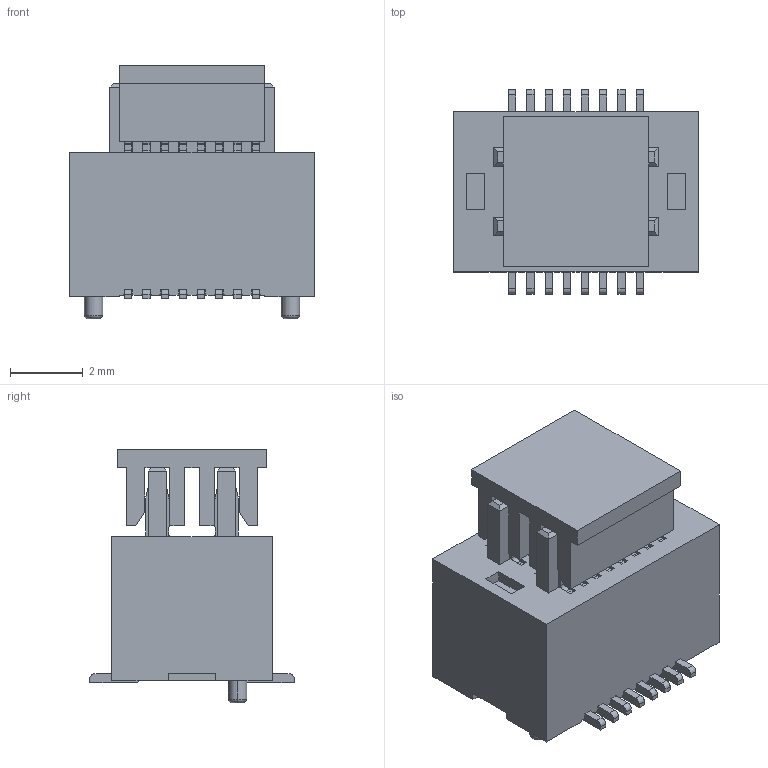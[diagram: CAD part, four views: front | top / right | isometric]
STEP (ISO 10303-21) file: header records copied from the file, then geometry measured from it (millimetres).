
FILE_DESCRIPTION(('CATIA V5 STEP Exchange'),'2;1');
FILE_NAME('F:\黄富鸿\板对板\PBB05\公座\H4.0\编带+盖\HC-PBB05-2-16-M-H4.0-G1-R-P-04（BTB0.5 双槽 公座 立贴 带柱 编带+盖）-HCTL.stp','2025-12-09T09:32:24+00:00',('none'),('none'),'CATIA Version 5 Release 20 GA (IN-10)','CATIA V5 STEP AP203','none');
FILE_SCHEMA(('CONFIG_CONTROL_DESIGN'));
Length unit declared in the file: millimetre
Products named in the file (1): Part2
Bounding box: 6.7 x 5.6 x 6.95 mm (x, y, z)
Volume: 142 mm3; surface area: 744.1 mm2
Topology: 18 solids, 18 shells, 1072 faces, 3206 edges, 2112 vertices
Faces by surface type: plane 744, cylinder 324, torus 4
Entity records: 31135 total; most frequent: ORIENTED_EDGE 6412, CARTESIAN_POINT 5640, DIRECTION 3624, EDGE_CURVE 3206, VECTOR 2518, LINE 2518, VERTEX_POINT 2112, EDGE_LOOP 1078
